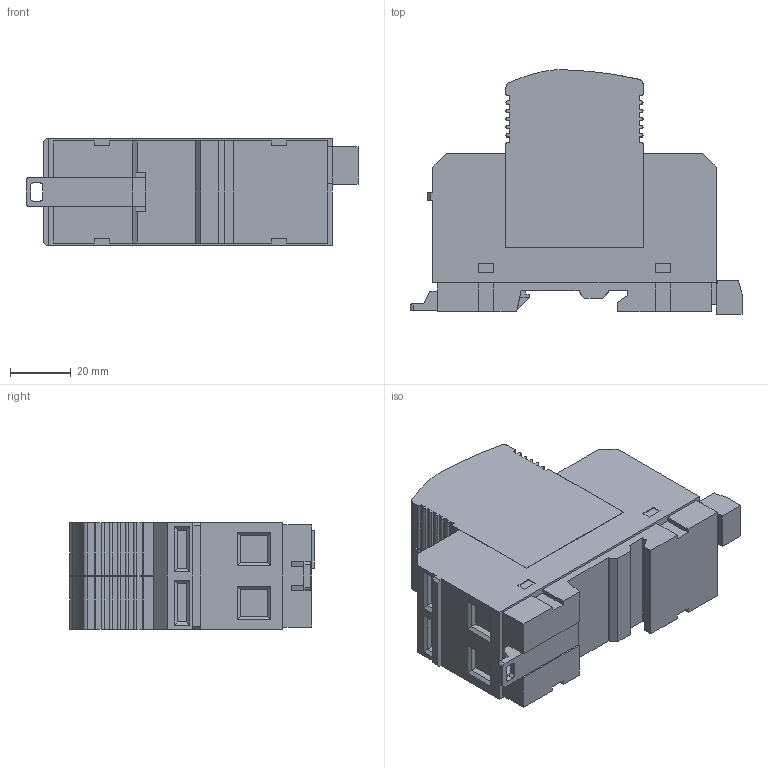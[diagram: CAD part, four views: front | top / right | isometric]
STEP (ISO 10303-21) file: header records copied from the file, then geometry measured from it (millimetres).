
FILE_DESCRIPTION(/* description */ (''),/* implementation_level */ '2;1');
FILE_NAME(/* name */ 'K:\PROJEKTY ROZPRACOVANÉ\MODELY DO KATALOGU\V-SERIE\3D - STEP\H PV_2 M S.stp',/* time_stamp */ '2021-06-10T13:28:17+02:00',/* author */ ('miko'),/* organization */ (''),/* preprocessor_version */ 'ST-DEVELOPER v18.1',/* originating_system */ 'Autodesk Inventor 2022',/* authorisation */ '');
FILE_SCHEMA (('AUTOMOTIVE_DESIGN { 1 0 10303 214 3 1 1 }'));
Length unit declared in the file: millimetre
Products named in the file (5): H PV_2 M S; H PV_2 M S_1; KONEKTOR DEGSON 15EDGRC 3.81 (OBRÁCENÉ VÝV
ODY); DIN 7985 (H) - M6x10-H; 15EDGK - 3.81 3P (RAL 2012)
Assembly tree (6 placements, depth 2):
  H PV_2 M S
    H PV_2 M S_1
    DIN 7985 (H) - M6x10-H  x3
    KONEKTOR DEGSON 15EDGRC 3.81 (OBRÁCENÉ VÝV
ODY)
    15EDGK - 3.81 3P (RAL 2012)
Bounding box: 109 x 80.25 x 35 mm (x, y, z)
Volume: 197730.8 mm3; surface area: 40505.1 mm2
Topology: 6 solids, 9 shells, 656 faces, 1705 edges, 1114 vertices
Faces by surface type: plane 512, cylinder 81, cone 51, torus 9, sphere 3
Full cylindrical faces by diameter (mm): 0.968 x3, 1 x6, 1.9 x3, 2 x3, 2.5 x3, 5.5 x3, 6 x3, 7.5 x3
Entity records: 17844 total; most frequent: CARTESIAN_POINT 3112, ORIENTED_EDGE 2994, DIRECTION 2897, EDGE_CURVE 1497, LINE 1239, VECTOR 1239, VERTEX_POINT 976, AXIS2_PLACEMENT_3D 829
